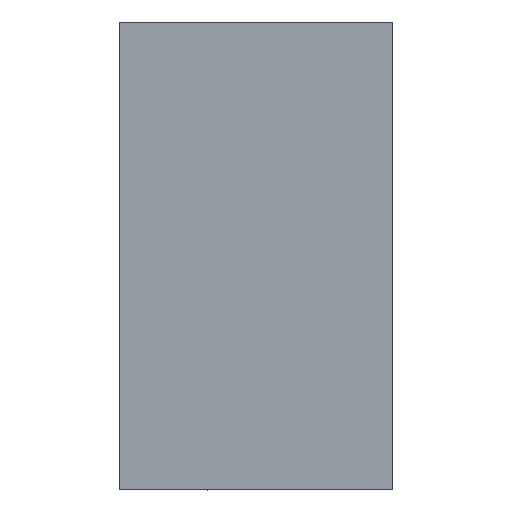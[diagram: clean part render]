
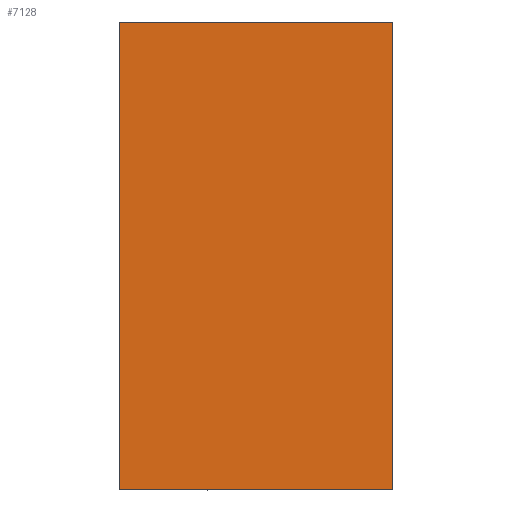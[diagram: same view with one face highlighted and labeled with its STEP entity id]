
A CAD part, left-side view. The second image highlights one B-rep face of the part: STEP entity #7128.
In plain terms, the highlighted planar face has unit normal (-1, 0, 0).
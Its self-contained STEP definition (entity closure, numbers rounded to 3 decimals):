
#331 = CARTESIAN_POINT ( 'NONE',  ( -553., 265., -228. ) ) ;
#1139 = VERTEX_POINT ( 'NONE', #5336 ) ;
#1364 = DIRECTION ( 'NONE',  ( 0., 0., -1. ) ) ;
#1499 = EDGE_CURVE ( 'NONE', #8943, #3686, #9017, .T. ) ;
#1663 = CARTESIAN_POINT ( 'NONE',  ( -553., 265., 231. ) ) ;
#2304 = AXIS2_PLACEMENT_3D ( 'NONE', #5233, #7571, #8339 ) ;
#2341 = CARTESIAN_POINT ( 'NONE',  ( -553., 265., 922.836 ) ) ;
#2483 = VECTOR ( 'NONE', #6666, 1000. ) ;
#3012 = EDGE_CURVE ( 'NONE', #8943, #9098, #8630, .T. ) ;
#3034 = ORIENTED_EDGE ( 'NONE', *, *, #8302, .T. ) ;
#3686 = VERTEX_POINT ( 'NONE', #7116 ) ;
#4133 = LINE ( 'NONE', #2341, #2483 ) ;
#4204 = CARTESIAN_POINT ( 'NONE',  ( -553., -3., 922.836 ) ) ;
#4253 = VECTOR ( 'NONE', #1364, 1000. ) ;
#4545 = PLANE ( 'NONE',  #2304 ) ;
#4730 = VECTOR ( 'NONE', #5960, 1000. ) ;
#4885 = ORIENTED_EDGE ( 'NONE', *, *, #1499, .T. ) ;
#4992 = ORIENTED_EDGE ( 'NONE', *, *, #3012, .F. ) ;
#5233 = CARTESIAN_POINT ( 'NONE',  ( -553., 265., 922.836 ) ) ;
#5336 = CARTESIAN_POINT ( 'NONE',  ( -553., 265., -228. ) ) ;
#5375 = FACE_OUTER_BOUND ( 'NONE', #9565, .T. ) ;
#5447 = LINE ( 'NONE', #331, #6672 ) ;
#5960 = DIRECTION ( 'NONE',  ( 0., 1., 0. ) ) ;
#6530 = ORIENTED_EDGE ( 'NONE', *, *, #9132, .F. ) ;
#6579 = CARTESIAN_POINT ( 'NONE',  ( -553., -3., 231. ) ) ;
#6666 = DIRECTION ( 'NONE',  ( 0., 0., -1. ) ) ;
#6672 = VECTOR ( 'NONE', #9187, 1000. ) ;
#7116 = CARTESIAN_POINT ( 'NONE',  ( -553., 265., 231. ) ) ;
#7128 = ADVANCED_FACE ( 'NONE', ( #5375 ), #4545, .T. ) ;
#7571 = DIRECTION ( 'NONE',  ( -1., 0., 0. ) ) ;
#7593 = CARTESIAN_POINT ( 'NONE',  ( -553., -3., -228. ) ) ;
#8302 = EDGE_CURVE ( 'NONE', #3686, #1139, #4133, .T. ) ;
#8339 = DIRECTION ( 'NONE',  ( 0., 0., 1. ) ) ;
#8630 = LINE ( 'NONE', #4204, #4253 ) ;
#8943 = VERTEX_POINT ( 'NONE', #6579 ) ;
#9017 = LINE ( 'NONE', #1663, #4730 ) ;
#9098 = VERTEX_POINT ( 'NONE', #7593 ) ;
#9132 = EDGE_CURVE ( 'NONE', #9098, #1139, #5447, .T. ) ;
#9187 = DIRECTION ( 'NONE',  ( 0., 1., 0. ) ) ;
#9565 = EDGE_LOOP ( 'NONE', ( #3034, #6530, #4992, #4885 ) ) ;
